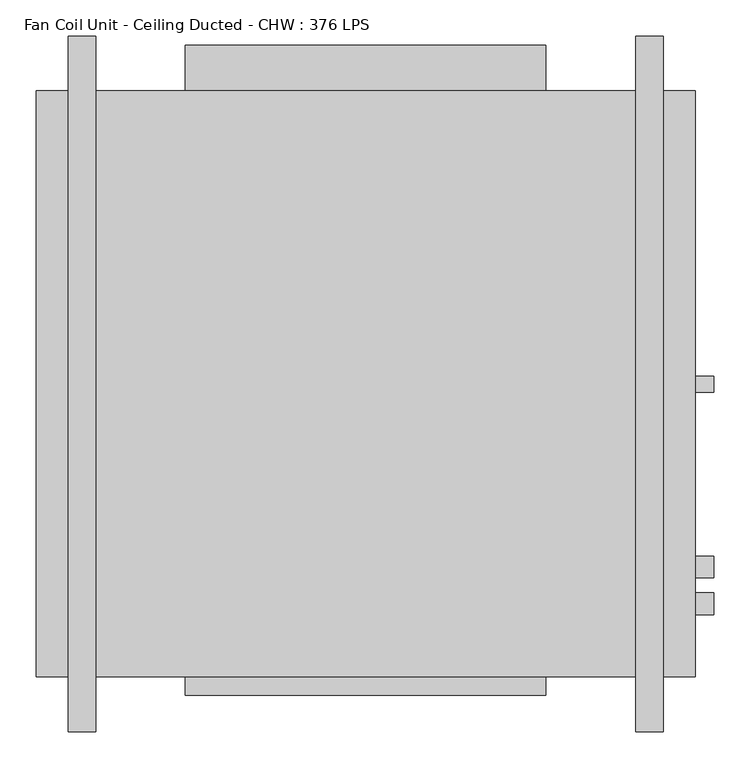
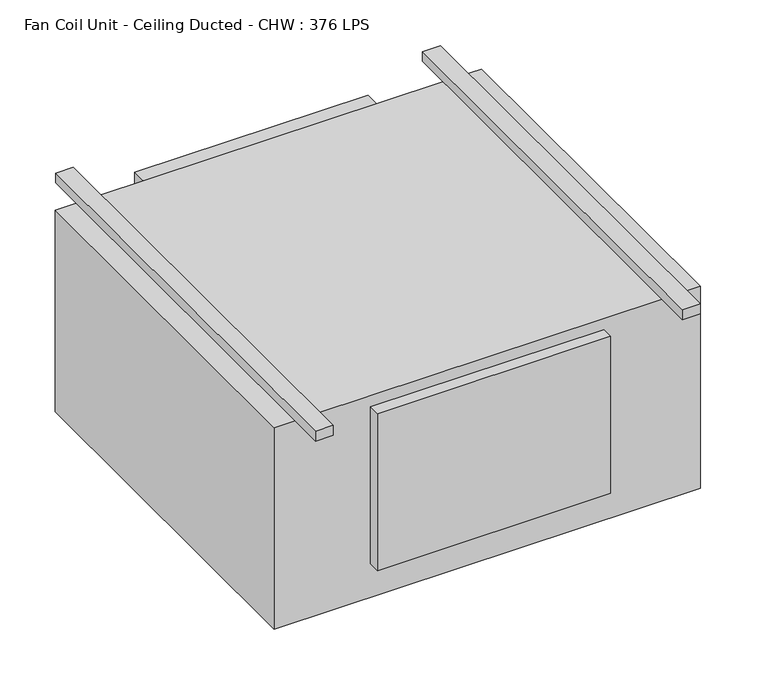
"""IFC4 building model written with IfcOpenShell, lengths in millimetres: proxy geometry, Fan Coil Unit - Ceiling Ducted - CHW : 376 LPS."""

from ifc_helpers import new_model, si_unit, frame, origin, place, context, project, spatial, circle_curve, source, transform, mapped, element, save
from ifc_brep_helpers import plane_surface, cylinder_surface, advanced_brep


def fan_coil_unit_ceiling_ducted_chw_376_lps_9c8cc8ac(model_context):
    return source(origin(), model_context, "Body", "AdvancedBrep", [
        advanced_brep(
        [(82.55, 889.0, 479.425), (44.45, 889.0, 479.425), (44.45, -76.2, 479.425), (82.55, -76.2, 479.425), (82.55, -76.2, 457.2), (44.45, -76.2, 457.2), (44.45, 0.0, 457.2), (82.55, 0.0, 457.2), (44.45, 889.0, 457.2), (82.55, 889.0, 457.2), (82.55, 812.8, 457.2), (44.45, 812.8, 457.2), (869.95, 889.0, 479.425), (831.85, 889.0, 479.425), (831.85, -76.2, 479.425), (869.95, -76.2, 479.425), (869.95, -76.2, 457.2), (831.85, -76.2, 457.2), (831.85, 0.0, 457.2), (869.95, 0.0, 457.2), (831.85, 889.0, 457.2), (869.95, 889.0, 457.2), (869.95, 812.8, 457.2), (831.85, 812.8, 457.2), (939.8, 137.4, 381.0), (939.8, 167.4, 381.0), (914.4, 137.4, 381.0), (914.4, 167.4, 381.0), (939.8, 86.6, 101.6), (939.8, 116.6, 101.6), (914.4, 86.6, 101.6), (914.4, 116.6, 101.6), (939.8, 395.2875, 38.1), (939.8, 417.5125, 38.1), (914.4, 395.2875, 38.1), (914.4, 417.5125, 38.1), (0.0, 812.8, 457.2), (0.0, 0.0, 457.2), (914.4, 0.0, 457.2), (914.4, 812.8, 457.2), (914.4, 812.8, 0.0), (914.4, 0.0, 0.0), (0.0, 0.0, 0.0), (0.0, 812.8, 0.0), (707.2, 812.8, 431.8), (207.2, 812.8, 431.8), (207.2, 812.8, 76.2), (707.2, 812.8, 76.2), (207.2, 0.0, 431.8), (707.2, 0.0, 431.8), (707.2, 0.0, 76.2), (207.2, 0.0, 76.2), (707.2, 876.3, 431.8), (207.2, 876.3, 431.8), (707.2, 876.3, 76.2), (207.2, 876.3, 76.2), (207.2, -25.4, 431.8), (707.2, -25.4, 431.8), (707.2, -25.4, 76.2), (207.2, -25.4, 76.2)],
        [
            (0, 1),
            (1, 2),
            (2, 3),
            (3, 0),
            (4, 5),
            (5, 6),
            (6, 7),
            (7, 4),
            (8, 9),
            (9, 10),
            (10, 11),
            (11, 8),
            (0, 9),
            (8, 1),
            (11, 6),
            (5, 2),
            (4, 3),
            (7, 10),
            (12, 13),
            (13, 14),
            (14, 15),
            (15, 12),
            (16, 17),
            (17, 18),
            (18, 19),
            (19, 16),
            (20, 21),
            (21, 22),
            (22, 23),
            (23, 20),
            (12, 21),
            (20, 13),
            (23, 18),
            (17, 14),
            (16, 15),
            (19, 22),
            (24, 25, circle_curve(frame((939.8, 152.4, 381.0), z_axis=(1.0, 0.0, 0.0), x_axis=(0.0, 1.0, 0.0)), 15.0)),
            (25, 24, circle_curve(frame((939.8, 152.4, 381.0), z_axis=(1.0, 0.0, 0.0), x_axis=(0.0, 1.0, 0.0)), 15.0)),
            (24, 26),
            (26, 27, circle_curve(frame((914.4, 152.4, 381.0), z_axis=(1.0, 0.0, 0.0), x_axis=(0.0, 1.0, 0.0)), 15.0)),
            (27, 25),
            (27, 26, circle_curve(frame((914.4, 152.4, 381.0), z_axis=(1.0, 0.0, 0.0), x_axis=(0.0, 1.0, 0.0)), 15.0)),
            (28, 29, circle_curve(frame((939.8, 101.6, 101.6), z_axis=(1.0, 0.0, 0.0), x_axis=(0.0, 1.0, 0.0)), 15.0)),
            (29, 28, circle_curve(frame((939.8, 101.6, 101.6), z_axis=(1.0, 0.0, 0.0), x_axis=(0.0, 1.0, 0.0)), 15.0)),
            (28, 30),
            (30, 31, circle_curve(frame((914.4, 101.6, 101.6), z_axis=(1.0, 0.0, 0.0), x_axis=(0.0, 1.0, 0.0)), 15.0)),
            (31, 29),
            (31, 30, circle_curve(frame((914.4, 101.6, 101.6), z_axis=(1.0, 0.0, 0.0), x_axis=(0.0, 1.0, 0.0)), 15.0)),
            (32, 33, circle_curve(frame((939.8, 406.4, 38.1), z_axis=(1.0, 0.0, 0.0), x_axis=(0.0, 1.0, 0.0)), 11.1125)),
            (33, 32, circle_curve(frame((939.8, 406.4, 38.1), z_axis=(1.0, 0.0, 0.0), x_axis=(0.0, 1.0, 0.0)), 11.1125)),
            (32, 34),
            (34, 35, circle_curve(frame((914.4, 406.4, 38.1), z_axis=(1.0, 0.0, 0.0), x_axis=(0.0, 1.0, 0.0)), 11.1125)),
            (35, 33),
            (35, 34, circle_curve(frame((914.4, 406.4, 38.1), z_axis=(1.0, 0.0, 0.0), x_axis=(0.0, 1.0, 0.0)), 11.1125)),
            (36, 37),
            (37, 6),
            (11, 36),
            (38, 39),
            (39, 22),
            (19, 38),
            (23, 10),
            (7, 18),
            (40, 41),
            (41, 42),
            (42, 43),
            (43, 40),
            (43, 36),
            (39, 40),
            (44, 45),
            (45, 46),
            (46, 47),
            (47, 44),
            (42, 37),
            (41, 38),
            (48, 49),
            (49, 50),
            (50, 51),
            (51, 48),
            (52, 53),
            (53, 45),
            (44, 52),
            (54, 47),
            (46, 55),
            (55, 54),
            (52, 54),
            (55, 53),
            (48, 56),
            (56, 57),
            (57, 49),
            (50, 58),
            (58, 59),
            (59, 51),
            (59, 56),
            (58, 57),
        ],
        [
            plane_surface(frame((44.45, 889.0, 479.425), z_axis=(0.0, 0.0, 1.0), x_axis=(-1.0, 0.0, 0.0))),
            plane_surface(frame((44.45, 889.0, 457.2), z_axis=(0.0, 0.0, -1.0), x_axis=(1.0, 0.0, 0.0))),
            plane_surface(frame((82.55, 889.0, 479.425), z_axis=(0.0, 1.0, 0.0), x_axis=(0.0, 0.0, -1.0))),
            plane_surface(frame((44.45, 889.0, 479.425), z_axis=(-1.0, 0.0, 0.0), x_axis=(0.0, 0.0, -1.0))),
            plane_surface(frame((44.45, -76.2, 479.425), z_axis=(0.0, -1.0, 0.0), x_axis=(0.0, 0.0, -1.0))),
            plane_surface(frame((82.55, -76.2, 479.425), z_axis=(1.0, 0.0, 0.0), x_axis=(0.0, 0.0, -1.0))),
            plane_surface(frame((831.85, 889.0, 479.425), z_axis=(0.0, 0.0, 1.0), x_axis=(-1.0, 0.0, 0.0))),
            plane_surface(frame((831.85, 889.0, 457.2), z_axis=(0.0, 0.0, -1.0), x_axis=(1.0, 0.0, 0.0))),
            plane_surface(frame((869.95, 889.0, 479.425), z_axis=(0.0, 1.0, 0.0), x_axis=(0.0, 0.0, -1.0))),
            plane_surface(frame((831.85, 889.0, 479.425), z_axis=(-1.0, 0.0, 0.0), x_axis=(0.0, 0.0, -1.0))),
            plane_surface(frame((831.85, -76.2, 479.425), z_axis=(0.0, -1.0, 0.0), x_axis=(0.0, 0.0, -1.0))),
            plane_surface(frame((869.95, -76.2, 479.425), z_axis=(1.0, 0.0, 0.0), x_axis=(0.0, 0.0, -1.0))),
            plane_surface(frame((939.8, 167.4, 381.0), z_axis=(1.0, 0.0, 0.0), x_axis=(0.0, 0.0, 1.0))),
            cylinder_surface(frame((914.4, 152.4, 381.0), z_axis=(1.0, 0.0, 0.0), x_axis=(0.0, 1.0, 0.0)), 15.0),
            plane_surface(frame((939.8, 116.6, 101.6), z_axis=(1.0, 0.0, 0.0), x_axis=(0.0, 0.0, 1.0))),
            cylinder_surface(frame((914.4, 101.6, 101.6), z_axis=(1.0, 0.0, 0.0), x_axis=(0.0, 1.0, 0.0)), 15.0),
            plane_surface(frame((939.8, 417.5125, 38.1), z_axis=(1.0, 0.0, 0.0), x_axis=(0.0, 0.0, 1.0))),
            cylinder_surface(frame((914.4, 406.4, 38.1), z_axis=(1.0, 0.0, 0.0), x_axis=(0.0, 1.0, 0.0)), 11.1125),
            plane_surface(frame((0.0, 812.8, 457.2), z_axis=(0.0, 0.0, 1.0), x_axis=(-1.0, 0.0, 0.0))),
            plane_surface(frame((0.0, 812.8, 0.0), z_axis=(0.0, 0.0, -1.0), x_axis=(1.0, 0.0, 0.0))),
            plane_surface(frame((914.4, 812.8, 457.2), z_axis=(0.0, 1.0, 0.0), x_axis=(0.0, 0.0, -1.0))),
            plane_surface(frame((0.0, 812.8, 457.2), z_axis=(-1.0, 0.0, 0.0), x_axis=(0.0, 0.0, -1.0))),
            plane_surface(frame((0.0, 0.0, 457.2), z_axis=(0.0, -1.0, 0.0), x_axis=(0.0, 0.0, -1.0))),
            plane_surface(frame((914.4, 0.0, 457.2), z_axis=(1.0, 0.0, 0.0), x_axis=(0.0, 0.0, -1.0))),
            plane_surface(frame((207.2, 876.3, 431.8), z_axis=(0.0, 0.0, 1.0), x_axis=(-1.0, 0.0, 0.0))),
            plane_surface(frame((207.2, 876.3, 76.2), z_axis=(0.0, 0.0, -1.0), x_axis=(1.0, 0.0, 0.0))),
            plane_surface(frame((707.2, 876.3, 431.8), z_axis=(0.0, 1.0, 0.0), x_axis=(0.0, 0.0, -1.0))),
            plane_surface(frame((207.2, 876.3, 431.8), z_axis=(-1.0, 0.0, 0.0), x_axis=(0.0, 0.0, -1.0))),
            plane_surface(frame((707.2, 812.8, 431.8), z_axis=(1.0, 0.0, 0.0), x_axis=(0.0, 0.0, -1.0))),
            plane_surface(frame((207.2, 0.0, 431.8), z_axis=(0.0, 0.0, 1.0), x_axis=(-1.0, 0.0, 0.0))),
            plane_surface(frame((207.2, 0.0, 76.2), z_axis=(0.0, 0.0, -1.0), x_axis=(1.0, 0.0, 0.0))),
            plane_surface(frame((207.2, 0.0, 431.8), z_axis=(-1.0, 0.0, 0.0), x_axis=(0.0, 0.0, -1.0))),
            plane_surface(frame((207.2, -25.4, 431.8), z_axis=(0.0, -1.0, 0.0), x_axis=(0.0, 0.0, -1.0))),
            plane_surface(frame((707.2, -25.4, 431.8), z_axis=(1.0, 0.0, 0.0), x_axis=(0.0, 0.0, -1.0))),
        ],
        [
            (0, [[1, 2, 3, 4]]),
            (1, [[5, 6, 7, 8]]),
            (1, [[9, 10, 11, 12]]),
            (2, [[-1, 13, -9, 14]]),
            (3, [[-2, -14, -12, 15, -6, 16]]),
            (4, [[-3, -16, -5, 17]]),
            (5, [[-4, -17, -8, 18, -10, -13]]),
            (6, [[19, 20, 21, 22]]),
            (7, [[23, 24, 25, 26]]),
            (7, [[27, 28, 29, 30]]),
            (8, [[-19, 31, -27, 32]]),
            (9, [[-20, -32, -30, 33, -24, 34]]),
            (10, [[-21, -34, -23, 35]]),
            (11, [[-22, -35, -26, 36, -28, -31]]),
            (12, [[37, 38]]),
            (13, [[-37, 39, 40, 41]]),
            (13, [[-38, -41, 42, -39]]),
            (14, [[43, 44]]),
            (15, [[-43, 45, 46, 47]]),
            (15, [[-44, -47, 48, -45]]),
            (16, [[49, 50]]),
            (17, [[-49, 51, 52, 53]]),
            (17, [[-50, -53, 54, -51]]),
            (18, [[55, 56, -15, 57]]),
            (18, [[58, 59, -36, 60]]),
            (18, [[61, -18, 62, -33]]),
            (19, [[63, 64, 65, 66]]),
            (20, [[-66, 67, -57, -11, -61, -29, -59, 68], [69, 70, 71, 72]]),
            (21, [[-55, -67, -65, 73]]),
            (22, [[-64, 74, -60, -25, -62, -7, -56, -73], [75, 76, 77, 78]]),
            (23, [[-58, -74, -63, -68], [-40, -42], [-46, -48], [-52, -54]]),
            (24, [[79, 80, -69, 81]]),
            (25, [[82, -71, 83, 84]]),
            (26, [[-79, 85, -84, 86]]),
            (27, [[-80, -86, -83, -70]]),
            (28, [[-81, -72, -82, -85]]),
            (29, [[87, 88, 89, -75]]),
            (30, [[90, 91, 92, -77]]),
            (31, [[-87, -78, -92, 93]]),
            (32, [[-88, -93, -91, 94]]),
            (33, [[-89, -94, -90, -76]]),
        ],
    ),
    ])


if __name__ == "__main__":
    model = new_model("IFC4")
    model_context = context("Model", 3, world=origin())
    ifc_project = project(units=[si_unit("LENGTHUNIT", "METRE", prefix="MILLI")], contexts=[model_context])
    site = spatial("IfcSite", under=ifc_project)
    building = spatial("IfcBuilding", under=site)
    placement = place(None, origin())
    fan_coil_unit_ceiling_ducted_chw_376_lps_shape = fan_coil_unit_ceiling_ducted_chw_376_lps_9c8cc8ac(model_context)
    element("IfcBuildingElementProxy", 1, Name="Fan Coil Unit - Ceiling Ducted - CHW : 376 LPS", ObjectType="Fan Coil Unit - Ceiling Ducted - CHW : 376 LPS", at=placement, inside=building, context=model_context, shape_type="MappedRepresentation", body=[
        mapped(fan_coil_unit_ceiling_ducted_chw_376_lps_shape, transform((0.0, 0.0, 0.0), x_axis=(1.0, 0.0, 0.0), y_axis=(0.0, 1.0, 0.0), z_axis=(0.0, 0.0, 1.0))),
    ])
    save(model, "model.ifc")
